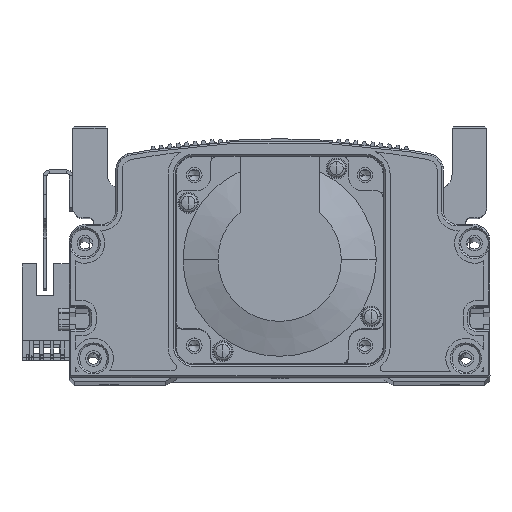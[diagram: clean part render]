
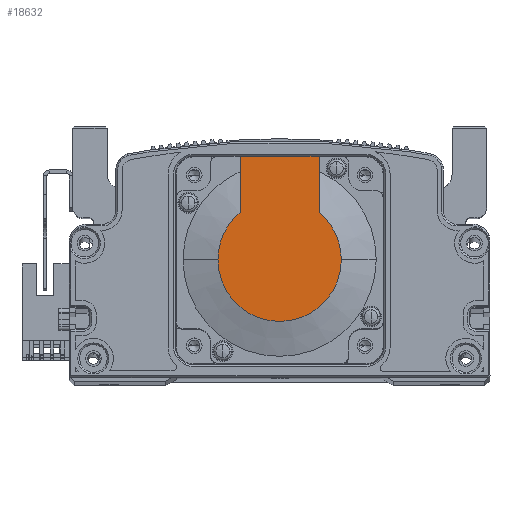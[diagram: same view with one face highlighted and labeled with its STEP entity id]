
A CAD part, top view. The second image highlights one B-rep face of the part: STEP entity #18632.
In plain terms, the highlighted planar face has unit normal (0, 0, 1) as drawn and (-1, 0, 0) by its records, which use the part's own axes.
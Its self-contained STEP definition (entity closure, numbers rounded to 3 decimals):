
#761 = DIRECTION ( 'NONE',  ( 0., 0., 1. ) ) ;
#1316 = ORIENTED_EDGE ( 'NONE', *, *, #62387, .F. ) ;
#3318 = EDGE_CURVE ( 'NONE', #13195, #23475, #41932, .T. ) ;
#9010 = VECTOR ( 'NONE', #67565, 1000. ) ;
#9105 = CARTESIAN_POINT ( 'NONE',  ( -118.5, -8.941, -11.45 ) ) ;
#9335 = EDGE_CURVE ( 'NONE', #45943, #47860, #24073, .T. ) ;
#9710 = AXIS2_PLACEMENT_3D ( 'NONE', #18490, #18744, #24137 ) ;
#11170 = AXIS2_PLACEMENT_3D ( 'NONE', #67108, #40573, #12844 ) ;
#11599 = CIRCLE ( 'NONE', #29172, 17.881 ) ;
#12351 = CARTESIAN_POINT ( 'NONE',  ( -118.5, 30., 11.45 ) ) ;
#12844 = DIRECTION ( 'NONE',  ( 0., 0., -1. ) ) ;
#13195 = VERTEX_POINT ( 'NONE', #12351 ) ;
#14400 = CARTESIAN_POINT ( 'NONE',  ( -118.5, 0., 0. ) ) ;
#15135 = DIRECTION ( 'NONE',  ( 0., 0., -1. ) ) ;
#15168 = CARTESIAN_POINT ( 'NONE',  ( -118.5, 0., 11.45 ) ) ;
#18490 = CARTESIAN_POINT ( 'NONE',  ( -118.5, -8.941, 0. ) ) ;
#18632 = ADVANCED_FACE ( 'NONE', ( #68610 ), #45068, .T. ) ;
#18744 = DIRECTION ( 'NONE',  ( -1., 0., 0. ) ) ;
#19748 = DIRECTION ( 'NONE',  ( -1., 0., 0. ) ) ;
#19809 = CARTESIAN_POINT ( 'NONE',  ( -118.5, 13.735, -11.45 ) ) ;
#21094 = CARTESIAN_POINT ( 'NONE',  ( -118.5, 13.735, 11.45 ) ) ;
#21411 = DIRECTION ( 'NONE',  ( -1., 0., 0. ) ) ;
#23475 = VERTEX_POINT ( 'NONE', #21094 ) ;
#24073 = LINE ( 'NONE', #9105, #9010 ) ;
#24137 = DIRECTION ( 'NONE',  ( 0., 0., 1. ) ) ;
#24225 = DIRECTION ( 'NONE',  ( 0., 0., -1. ) ) ;
#24403 = CIRCLE ( 'NONE', #11170, 17.881 ) ;
#24478 = EDGE_CURVE ( 'NONE', #43565, #43640, #11599, .T. ) ;
#24861 = CARTESIAN_POINT ( 'NONE',  ( -118.5, 0., -17.881 ) ) ;
#25698 = DIRECTION ( 'NONE',  ( 0., -1., 0. ) ) ;
#28094 = EDGE_CURVE ( 'NONE', #43640, #23475, #33876, .T. ) ;
#29172 = AXIS2_PLACEMENT_3D ( 'NONE', #52849, #21411, #15135 ) ;
#29413 = VECTOR ( 'NONE', #25698, 1000. ) ;
#30901 = AXIS2_PLACEMENT_3D ( 'NONE', #14400, #19748, #24225 ) ;
#31502 = ORIENTED_EDGE ( 'NONE', *, *, #24478, .T. ) ;
#32255 = CARTESIAN_POINT ( 'NONE',  ( -118.5, 30., -11.45 ) ) ;
#33876 = CIRCLE ( 'NONE', #30901, 17.881 ) ;
#37782 = ORIENTED_EDGE ( 'NONE', *, *, #37903, .T. ) ;
#37903 = EDGE_CURVE ( 'NONE', #47860, #43565, #24403, .T. ) ;
#40573 = DIRECTION ( 'NONE',  ( -1., 0., 0. ) ) ;
#41932 = LINE ( 'NONE', #15168, #29413 ) ;
#42826 = ORIENTED_EDGE ( 'NONE', *, *, #3318, .F. ) ;
#43565 = VERTEX_POINT ( 'NONE', #24861 ) ;
#43640 = VERTEX_POINT ( 'NONE', #57831 ) ;
#45068 = PLANE ( 'NONE',  #9710 ) ;
#45943 = VERTEX_POINT ( 'NONE', #32255 ) ;
#46539 = ORIENTED_EDGE ( 'NONE', *, *, #28094, .T. ) ;
#47860 = VERTEX_POINT ( 'NONE', #19809 ) ;
#52849 = CARTESIAN_POINT ( 'NONE',  ( -118.5, 0., 0. ) ) ;
#55234 = ORIENTED_EDGE ( 'NONE', *, *, #9335, .T. ) ;
#55355 = VECTOR ( 'NONE', #761, 1000. ) ;
#57037 = LINE ( 'NONE', #59897, #55355 ) ;
#57831 = CARTESIAN_POINT ( 'NONE',  ( -118.5, 0., 17.881 ) ) ;
#58498 = EDGE_LOOP ( 'NONE', ( #55234, #37782, #31502, #46539, #42826, #1316 ) ) ;
#59897 = CARTESIAN_POINT ( 'NONE',  ( -118.5, 30., 25. ) ) ;
#62387 = EDGE_CURVE ( 'NONE', #45943, #13195, #57037, .T. ) ;
#67108 = CARTESIAN_POINT ( 'NONE',  ( -118.5, 0., 0. ) ) ;
#67565 = DIRECTION ( 'NONE',  ( 0., -1., 0. ) ) ;
#68610 = FACE_OUTER_BOUND ( 'NONE', #58498, .T. ) ;
